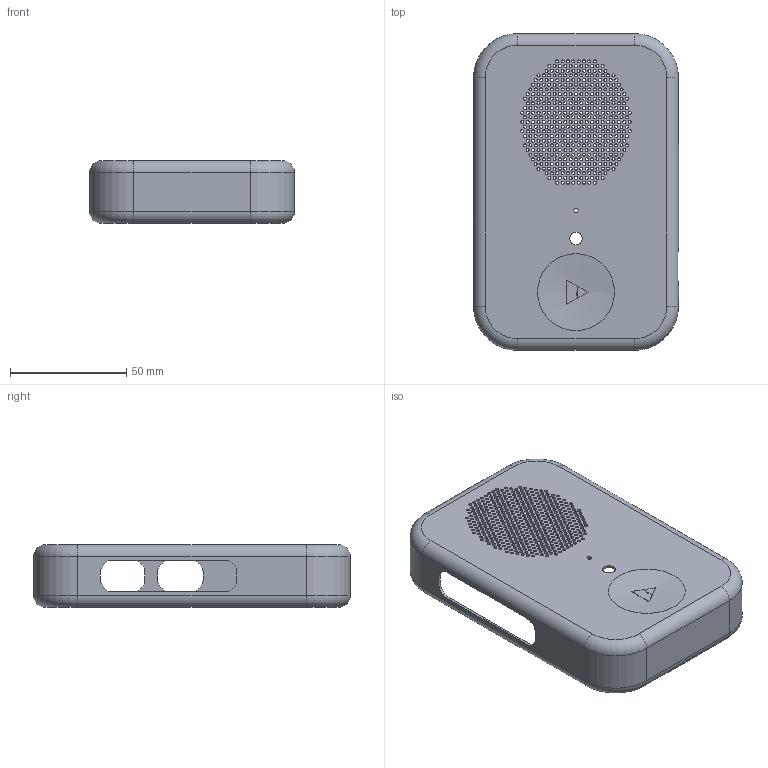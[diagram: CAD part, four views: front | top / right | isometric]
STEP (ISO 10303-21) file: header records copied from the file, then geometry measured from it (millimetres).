
FILE_DESCRIPTION(('Open CASCADE Model'),'2;1');
FILE_NAME('Open CASCADE Shape Model','2026-09-06T11:23:44',('Author'),( 'Open CASCADE'),'Open CASCADE STEP processor 7.7','Open CASCADE 7.7' ,'Unknown');
FILE_SCHEMA(('AUTOMOTIVE_DESIGN { 1 0 10303 214 1 1 1 1 }'));
Length unit declared in the file: millimetre
Products named in the file (1): Open CASCADE STEP translator 7.7 3
Bounding box: 88 x 136 x 27 mm (x, y, z)
Volume: 19979.1 mm3; surface area: 42892.8 mm2
Topology: 1 solids, 1 shells, 561 faces, 1626 edges, 1067 vertices
Faces by surface type: cylinder 503, plane 39, torus 16, sphere 3
Full cylindrical faces by diameter (mm): 1.3 x453, 1.58 x1, 1.8 x1, 5.4 x1, 33 x1
Entity records: 45601 total; most frequent: CARTESIAN_POINT 13089, DIRECTION 5995, ORIENTED_EDGE 3248, PCURVE 3248, DEFINITIONAL_REPRESENTATION 3248, LINE 2780, VECTOR 2780, EDGE_CURVE 1624
